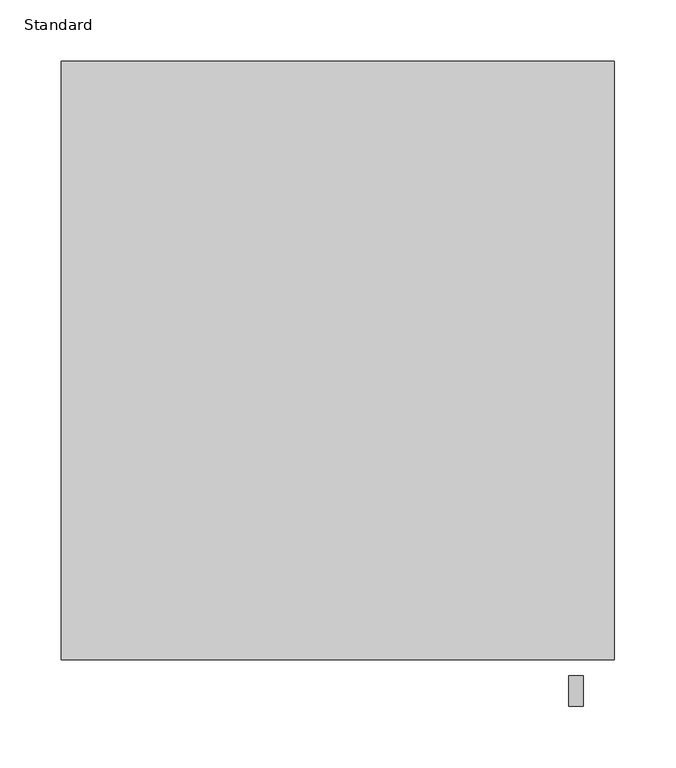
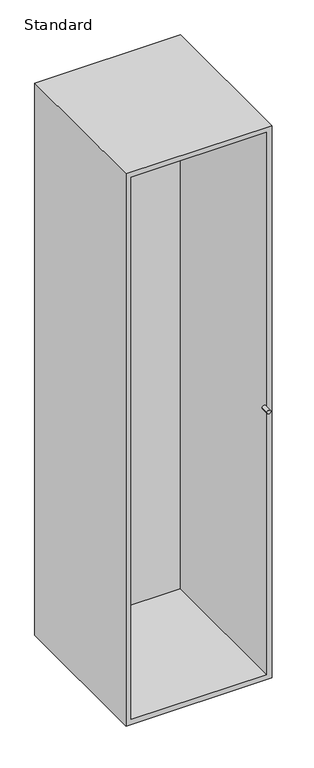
"""IFC4 building model written with IfcOpenShell, lengths in millimetres: furniture geometry, X_Locker-Duracube-EOT Bay : Standard."""

import ifcopenshell
import ifcopenshell.guid

model = None  # the IFC model being written
_history = None  # IfcOwnerHistory: only IFC2X3 demands one
_inside = {}  # id of a spatial element -> (the spatial element, [elements in it])
_under = {}  # id of a project, library or spatial element -> (it, [spatial elements below it])
_declared = {}  # id of a project -> (the project, [libraries it declares])
_typed = {}  # id of a type object -> (the type object, [elements of that type])
_made_of = {}  # id of a material, layer set ... -> (it, [elements and type objects made of it])


def new_model(schema):
    """Start an empty IFC model of exactly this schema.

    Asked for "IFC4X3", IfcOpenShell would pick the latest addendum, in which some entities
    have other attributes; the version numbers below select the first issue.
    IFC2X3 requires an IfcOwnerHistory on every rooted entity: one is made here for all.
    """
    global model, _history
    if schema == "IFC4X3":
        model = ifcopenshell.file(schema_version=(4, 3, 0, 0))
    else:
        model = ifcopenshell.file(schema=schema)
    _inside.clear()
    _under.clear()
    _declared.clear()
    _typed.clear()
    _made_of.clear()
    _history = None
    if model.schema == "IFC2X3":
        org = make("IfcOrganization", Name="unknown")
        user = make(
            "IfcPersonAndOrganization",
            ThePerson=make("IfcPerson", FamilyName="unknown"),
            TheOrganization=org,
        )
        app = make(
            "IfcApplication",
            ApplicationDeveloper=org,
            Version="unknown",
            ApplicationFullName="unknown",
            ApplicationIdentifier="unknown",
        )
        _history = make(
            "IfcOwnerHistory",
            OwningUser=user,
            OwningApplication=app,
            ChangeAction="ADDED",
            CreationDate=0,
        )
    return model


def make(cls, **values):
    """One entity of the class cls with the attributes given. An attribute that is None is left unset."""
    return model.create_entity(
        cls, **{name: value for name, value in values.items() if value is not None}
    )


def rooted(cls, **values):
    """An entity with a GlobalId (a new one), such as an element, a storey or a relation."""
    return make(cls, GlobalId=ifcopenshell.guid.new(), OwnerHistory=_history, **values)


def si_unit(unit_type, name, prefix=None):
    """IfcSIUnit, for example si_unit("LENGTHUNIT", "METRE", prefix="MILLI")."""
    return make("IfcSIUnit", UnitType=unit_type, Prefix=prefix, Name=name)


def assignment(units):
    """IfcUnitAssignment: the units of a project."""
    return None if units is None else make("IfcUnitAssignment", Units=units)


def point(xyz):
    """IfcCartesianPoint."""
    return None if xyz is None else make("IfcCartesianPoint", Coordinates=xyz)


def direction(xyz):
    """IfcDirection."""
    return None if xyz is None else make("IfcDirection", DirectionRatios=xyz)


def frame(location, z_axis=None, x_axis=None):
    """IfcAxis2Placement3D, a coordinate frame: its origin and axes. An axis left out is left unset."""
    return make(
        "IfcAxis2Placement3D",
        Location=point(location),
        Axis=direction(z_axis),
        RefDirection=direction(x_axis),
    )


def frame_2d(location, x_axis=None):
    """IfcAxis2Placement2D, a coordinate frame in the plane: its origin and x axis."""
    return make(
        "IfcAxis2Placement2D", Location=point(location), RefDirection=direction(x_axis)
    )


def origin():
    """The frame at (0, 0, 0) with its axes left unset."""
    return frame((0.0, 0.0, 0.0))


def place(relative_to, where):
    """IfcLocalPlacement: puts the frame where relative to a parent placement (None: the world)."""
    return make(
        "IfcLocalPlacement", PlacementRelTo=relative_to, RelativePlacement=where
    )


def context(
    kind, dimensions, precision=None, world=None, true_north=None, identifier=None
):
    """IfcGeometricRepresentationContext, for example the 3D "Model" context."""
    return make(
        "IfcGeometricRepresentationContext",
        ContextIdentifier=identifier,
        ContextType=kind,
        CoordinateSpaceDimension=dimensions,
        Precision=precision,
        WorldCoordinateSystem=world,
        TrueNorth=true_north,
    )


def project(units=None, contexts=None):
    """IfcProject with its units and contexts."""
    return rooted(
        "IfcProject",
        Name="project",
        RepresentationContexts=contexts,
        UnitsInContext=assignment(units),
    )


def spatial(cls, under=None, at=None, **own):
    """A site, building, storey or space (cls), placed at a placement, below another one or the project."""
    s = rooted(cls, ObjectPlacement=at, **own)
    if under is not None:
        _under.setdefault(under.id(), (under, []))[1].append(s)
    return s


def polyline(points):
    """IfcPolyline through the points."""
    return make("IfcPolyline", Points=[point(p) for p in points])


def circle_curve(where, radius):
    """IfcCircle in the frame where."""
    return make("IfcCircle", Position=where, Radius=radius)


def trimmed(basis, trim1, trim2, sense, master):
    """IfcTrimmedCurve: the piece of a basis curve between two trims."""
    return make(
        "IfcTrimmedCurve",
        BasisCurve=basis,
        Trim1=trim1,
        Trim2=trim2,
        SenseAgreement=sense,
        MasterRepresentation=master,
    )


def segment(curve, same_sense, transition):
    """IfcCompositeCurveSegment."""
    return make(
        "IfcCompositeCurveSegment",
        Transition=transition,
        SameSense=same_sense,
        ParentCurve=curve,
    )


def composite_curve(segments, self_intersect=None):
    """IfcCompositeCurve: segments joined end to end."""
    return make("IfcCompositeCurve", Segments=segments, SelfIntersect=self_intersect)


def outline(outer, holes=None, kind="AREA"):
    """IfcArbitraryClosedProfileDef: a profile drawn as a closed curve; with holes, ...WithVoids."""
    if holes is None:
        return make("IfcArbitraryClosedProfileDef", ProfileType=kind, OuterCurve=outer)
    return make(
        "IfcArbitraryProfileDefWithVoids",
        ProfileType=kind,
        OuterCurve=outer,
        InnerCurves=holes,
    )


def extrude(swept, where, along, depth):
    """IfcExtrudedAreaSolid: the profile swept, set in the frame where, extruded along a direction by depth."""
    return make(
        "IfcExtrudedAreaSolid",
        SweptArea=swept,
        Position=where,
        ExtrudedDirection=direction(along),
        Depth=depth,
    )


def faces_of(points, faces, orient=None, outer=None):
    """IfcFace entities. A face is a list of loops; a loop is a list of indices into points, from 0.

    orient and outer hold one flag for each loop. By default every Orientation is true, the
    first loop of a face is its IfcFaceOuterBound and the others are IfcFaceBound.
    """
    made = []
    for i, loops in enumerate(faces):
        bounds = []
        for j, loop in enumerate(loops):
            is_outer = j == 0 if outer is None else outer[i][j]
            bounds.append(
                make(
                    "IfcFaceOuterBound" if is_outer else "IfcFaceBound",
                    Bound=make("IfcPolyLoop", Polygon=[points[k] for k in loop]),
                    Orientation=True if orient is None else orient[i][j],
                )
            )
        made.append(make("IfcFace", Bounds=bounds))
    return made


def faceted_brep(points, faces, orient=None, outer=None, voids=None):
    """IfcFacetedBrep: a solid bounded by flat faces; with voids (closed shells), ...WithVoids."""
    shared = [point(p) for p in points]
    hull = make("IfcClosedShell", CfsFaces=faces_of(shared, faces, orient, outer))
    if voids is None:
        return make("IfcFacetedBrep", Outer=hull)
    return make(
        "IfcFacetedBrepWithVoids",
        Outer=hull,
        Voids=[
            make(cls, CfsFaces=faces_of(shared, fs, o, b)) for cls, fs, o, b in voids
        ],
    )


def shape(context_of_items, identifier, shape_type, items):
    """IfcShapeRepresentation: the items that make up one representation, for example the "Body"."""
    return make(
        "IfcShapeRepresentation",
        ContextOfItems=context_of_items,
        RepresentationIdentifier=identifier,
        RepresentationType=shape_type,
        Items=items,
    )


def source(mapping_origin, context_of_items, identifier, shape_type, items):
    """IfcRepresentationMap: a shape defined once, which mapped items show again and again."""
    return make(
        "IfcRepresentationMap",
        MappingOrigin=mapping_origin,
        MappedRepresentation=shape(context_of_items, identifier, shape_type, items),
    )


def transform(
    local_origin,
    x_axis=None,
    y_axis=None,
    z_axis=None,
    scale=None,
    scale2=None,
    scale3=None,
    uniform=True,
):
    """IfcCartesianTransformationOperator3D, or its non-uniform kind. x_axis, y_axis, z_axis: its Axis1, 2, 3."""
    if uniform:
        return make(
            "IfcCartesianTransformationOperator3D",
            Axis1=direction(x_axis),
            Axis2=direction(y_axis),
            LocalOrigin=point(local_origin),
            Scale=scale,
            Axis3=direction(z_axis),
        )
    return make(
        "IfcCartesianTransformationOperator3DnonUniform",
        Axis1=direction(x_axis),
        Axis2=direction(y_axis),
        LocalOrigin=point(local_origin),
        Scale=scale,
        Axis3=direction(z_axis),
        Scale2=scale2,
        Scale3=scale3,
    )


def mapped(mapping_source, mapping_target):
    """IfcMappedItem: shows the shape of a source again, moved by a transform."""
    return make(
        "IfcMappedItem", MappingSource=mapping_source, MappingTarget=mapping_target
    )


def made_of(thing, what):
    """Note that an element or type object is made of a material, layer set ...; save() writes the relation."""
    if what is not None:
        _made_of.setdefault(what.id(), (what, []))[1].append(thing)
    return thing


def element(
    cls,
    number,
    at=None,
    inside=None,
    cuts=None,
    type_object=None,
    material=None,
    context=None,
    identifier="Body",
    shape_type=None,
    held_by="IfcProductDefinitionShape",
    body=None,
    shapes=None,
    **own,
):
    """One element of the class cls, such as IfcWall. Its Tag is "e" and its number.

    at: its placement. inside: the storey or other place that contains it. cuts: it is an
    opening in that element (IfcRelVoidsElement). A single representation is given by context,
    identifier, shape_type and body (its items); several are given by shapes. held_by: the class
    of the entity that holds the representations. save() writes the other relations.
    """
    e = rooted(cls, Tag="e%d" % number, ObjectPlacement=at, **own)
    if body is not None:
        shapes = [shape(context, identifier, shape_type, body)]
    if shapes is not None:
        e.Representation = make(held_by, Representations=shapes)
    if inside is not None:
        _inside.setdefault(inside.id(), (inside, []))[1].append(e)
    if cuts is not None:
        rooted(
            "IfcRelVoidsElement", RelatingBuildingElement=cuts, RelatedOpeningElement=e
        )
    if type_object is not None:
        _typed.setdefault(type_object.id(), (type_object, []))[1].append(e)
    return made_of(e, material)


def aggregate(whole, parts):
    """IfcRelAggregates: a whole, such as a stair, and the parts it consists of."""
    return rooted("IfcRelAggregates", RelatingObject=whole, RelatedObjects=parts)


def save(model, path):
    """Write the relations noted so far, then the file.

    IfcRelAggregates (storeys below a building ...), IfcRelContainedInSpatialStructure (elements
    in a storey), IfcRelDefinesByType, IfcRelAssociatesMaterial and IfcRelDeclares: one each for
    every whole, place, type object, material and project.
    """
    for whole, parts in _under.values():
        aggregate(whole, parts)
    for where, things in _inside.values():
        rooted(
            "IfcRelContainedInSpatialStructure",
            RelatedElements=things,
            RelatingStructure=where,
        )
    for kind, things in _typed.values():
        rooted("IfcRelDefinesByType", RelatedObjects=things, RelatingType=kind)
    for what, things in _made_of.values():
        rooted("IfcRelAssociatesMaterial", RelatedObjects=things, RelatingMaterial=what)
    for by, libraries in _declared.values():
        rooted("IfcRelDeclares", RelatingContext=by, RelatedDefinitions=libraries)
    model.write(path)


def standard_82cc17a7(model_context):
    return source(origin(), model_context, "Body", "SolidModel", [
        extrude(outline(composite_curve([segment(trimmed(circle_curve(frame_2d((900.0, 238.7003264)), 6.0), [point((900.0, 232.7003264))], [point((900.0, 244.7003264))], False, "CARTESIAN"), True, "CONTINUOUS"), segment(trimmed(circle_curve(frame_2d((900.0, 238.7003264)), 6.0), [point((900.0, 244.7003264))], [point((900.0, 232.7003264))], False, "CARTESIAN"), True, "CONTINUOUS")], self_intersect=False)), frame((0.0, -525.0, 0.0), z_axis=(0.0, 1.0, 0.0), x_axis=(0.0, 0.0, 1.0)), (0.0, 0.0, 1.0), 25.0),
        faceted_brep([(269.7003264, -487.0, 1800.0), (-180.2996736, -487.0, 1800.0), (-180.2996736, -487.0, 0.0), (269.7003264, -487.0, 0.0), (253.7003264, -487.0, 1784.0), (253.7003264, -487.0, 16.0), (-164.2996736, -487.0, 16.0), (-164.2996736, -487.0, 1784.0), (-180.2996736, 0.0, 1800.0), (-180.2996736, 0.0, 0.0), (269.7003264, 0.0, 0.0), (269.7003264, 0.0, 1800.0), (253.7003264, -26.0, 1784.0), (253.7003264, -26.0, 16.0), (253.7003264, 0.0, 1784.0), (253.7003264, 0.0, 16.0), (253.7003264, -10.0, 16.0), (253.7003264, -10.0, 1784.0), (-164.2996736, -26.0, 16.0), (-164.2996736, 0.0, 16.0), (-164.2996736, -10.0, 16.0), (-164.2996736, -26.0, 1784.0), (-164.2996736, 0.0, 1784.0), (-164.2996736, -10.0, 1784.0)], [[[0, 1, 2, 3], [4, 5, 6, 7]], [[2, 1, 8, 9]], [[3, 2, 9, 10]], [[0, 3, 10, 11]], [[5, 4, 12, 13]], [[14, 15, 16, 17]], [[6, 5, 13, 18]], [[15, 19, 20, 16]], [[7, 6, 18, 21]], [[19, 22, 23, 20]], [[11, 10, 9, 8], [14, 22, 19, 15]], [[13, 12, 21, 18]], [[17, 16, 20, 23]], [[1, 0, 11, 8]], [[4, 7, 21, 12]], [[22, 14, 17, 23]]]),
        extrude(outline(composite_curve([segment(polyline([(-242.5, 1701.0), (-242.5, 1686.0)]), True, "CONTINUOUS"), segment(trimmed(circle_curve(frame_2d((-250.0, 1686.0)), 7.5), [point((-242.5, 1686.0))], [point((-257.5, 1686.0))], False, "CARTESIAN"), True, "CONTINUOUS"), segment(polyline([(-257.5, 1686.0), (-257.5, 1701.0)]), True, "CONTINUOUS"), segment(trimmed(circle_curve(frame_2d((-250.0, 1701.0)), 7.5), [point((-257.5, 1701.0))], [point((-242.5, 1701.0))], False, "CARTESIAN"), True, "CONTINUOUS")], self_intersect=False)), frame((-164.2996736, 0.0, 0.0), z_axis=(1.0, 0.0, 0.0), x_axis=(0.0, 1.0, 0.0)), (0.0, 0.0, 1.0), 418.0),
    ])


if __name__ == "__main__":
    model = new_model("IFC4")
    model_context = context("Model", 3, world=origin())
    ifc_project = project(units=[si_unit("LENGTHUNIT", "METRE", prefix="MILLI")], contexts=[model_context])
    site = spatial("IfcSite", under=ifc_project)
    building = spatial("IfcBuilding", under=site)
    placement = place(None, origin())
    standard_shape = standard_82cc17a7(model_context)
    element("IfcFurniture", 1, ObjectType="X_Locker-Duracube-EOT Bay : Standard", at=placement, inside=building, context=model_context, shape_type="MappedRepresentation", body=[
        mapped(standard_shape, transform((0.0, 0.0, 0.0), x_axis=(1.0, 0.0, 0.0), y_axis=(0.0, 1.0, 0.0), z_axis=(0.0, 0.0, 1.0))),
    ])
    save(model, "model.ifc")
